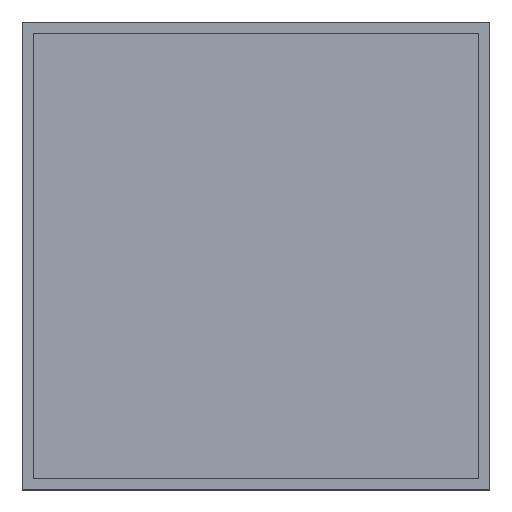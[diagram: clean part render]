
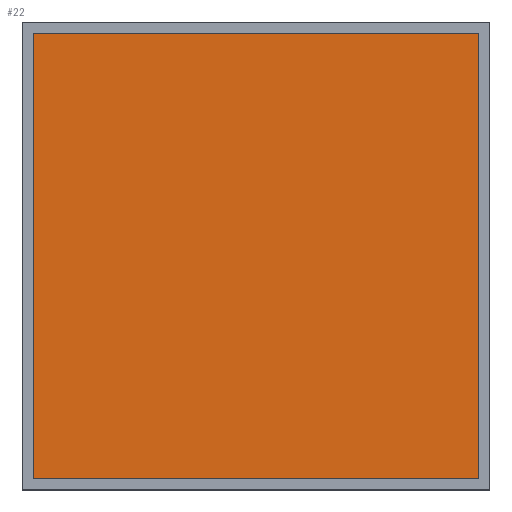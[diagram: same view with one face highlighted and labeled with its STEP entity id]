
A CAD part, top view. The second image highlights one B-rep face of the part: STEP entity #22.
In plain terms, the highlighted planar face has unit normal (0, 0, 1).
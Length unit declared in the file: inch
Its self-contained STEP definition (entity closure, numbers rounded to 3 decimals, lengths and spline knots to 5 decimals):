
#22=ADVANCED_FACE('',(#42),#291,.T.);
#42=FACE_OUTER_BOUND('',#63,.T.);
#63=EDGE_LOOP('',(#114,#115,#116,#117));
#114=ORIENTED_EDGE('',*,*,#185,.T.);
#115=ORIENTED_EDGE('',*,*,#182,.T.);
#116=ORIENTED_EDGE('',*,*,#186,.T.);
#117=ORIENTED_EDGE('',*,*,#180,.T.);
#180=EDGE_CURVE('',#265,#264,#225,.T.);
#182=EDGE_CURVE('',#268,#269,#227,.T.);
#185=EDGE_CURVE('',#264,#268,#230,.T.);
#186=EDGE_CURVE('',#269,#265,#231,.T.);
#225=B_SPLINE_CURVE_WITH_KNOTS('',1,(#517,#518),.UNSPECIFIED.,.F.,.F.,(2,
2),(0.,5.),.UNSPECIFIED.);
#227=B_SPLINE_CURVE_WITH_KNOTS('',1,(#521,#522),.UNSPECIFIED.,.F.,.F.,(2,
2),(0.,5.),.UNSPECIFIED.);
#230=B_SPLINE_CURVE_WITH_KNOTS('',1,(#527,#528),.UNSPECIFIED.,.F.,.F.,(2,
2),(0.,5.001),.UNSPECIFIED.);
#231=B_SPLINE_CURVE_WITH_KNOTS('',1,(#529,#530),.UNSPECIFIED.,.F.,.F.,(2,
2),(0.,5.001),.UNSPECIFIED.);
#264=VERTEX_POINT('',#469);
#265=VERTEX_POINT('',#470);
#268=VERTEX_POINT('',#473);
#269=VERTEX_POINT('',#474);
#291=PLANE('',#402);
#402=AXIS2_PLACEMENT_3D('',#448,#425,$);
#425=DIRECTION('',(0.,0.,1.));
#448=CARTESIAN_POINT('',(-37.46683,11.00541,0.1));
#469=CARTESIAN_POINT('',(-37.46683,11.00541,0.1));
#470=CARTESIAN_POINT('',(-32.46683,11.00541,0.1));
#473=CARTESIAN_POINT('',(-37.46683,6.00441,0.1));
#474=CARTESIAN_POINT('',(-32.46683,6.00441,0.1));
#517=CARTESIAN_POINT('',(-32.46683,11.00541,0.1));
#518=CARTESIAN_POINT('',(-37.46683,11.00541,0.1));
#521=CARTESIAN_POINT('',(-37.46683,6.00441,0.1));
#522=CARTESIAN_POINT('',(-32.46683,6.00441,0.1));
#527=CARTESIAN_POINT('',(-37.46683,11.00541,0.1));
#528=CARTESIAN_POINT('',(-37.46683,6.00441,0.1));
#529=CARTESIAN_POINT('',(-32.46683,6.00441,0.1));
#530=CARTESIAN_POINT('',(-32.46683,11.00541,0.1));
